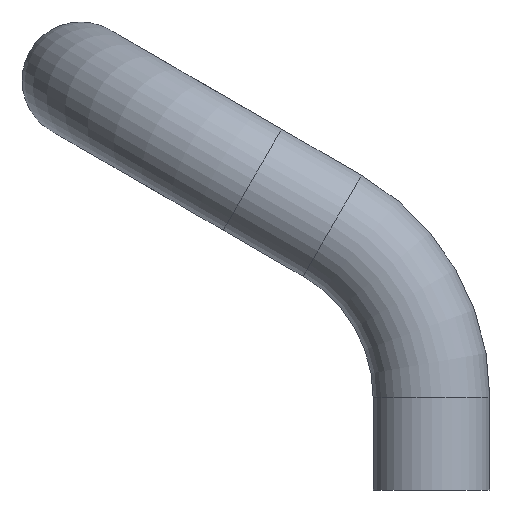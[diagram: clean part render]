
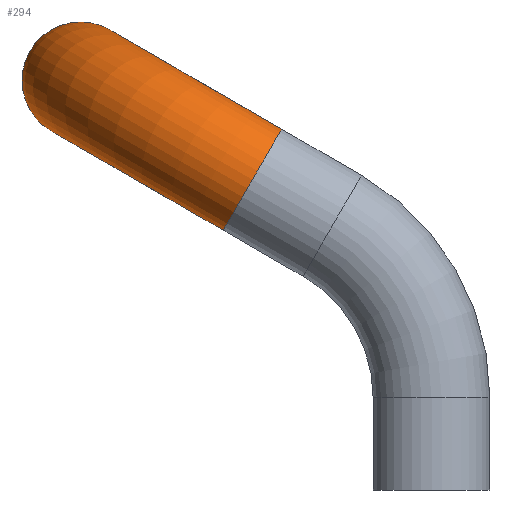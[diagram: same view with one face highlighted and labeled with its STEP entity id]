
A CAD part, left-side view. The second image highlights one B-rep face of the part: STEP entity #294.
In plain terms, the highlighted toroidal (fillet/blend) face has major radius 17 mm and minor radius 5 mm.
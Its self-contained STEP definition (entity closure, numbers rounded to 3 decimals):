
#267=CARTESIAN_POINT('',(17.0,15.342,26.572));
#268=DIRECTION('',(0.0,-0.5,0.866));
#269=DIRECTION('',(1.0,0.0,0.0));
#270=AXIS2_PLACEMENT_3D('',#267,#268,#269);
#271=TOROIDAL_SURFACE('',#270,17.0,5.0);
#272=CARTESIAN_POINT('',(5.0,15.342,26.572));
#273=VERTEX_POINT('',#272);
#274=CARTESIAN_POINT('',(0.0,15.342,26.572));
#275=DIRECTION('',(0.0,0.866,0.5));
#276=DIRECTION('',(1.0,0.0,0.0));
#277=AXIS2_PLACEMENT_3D('',#274,#275,#276);
#278=CIRCLE('',#277,5.0);
#279=EDGE_CURVE('',#273,#273,#278,.T.);
#280=ORIENTED_EDGE('',*,*,#279,.T.);
#281=EDGE_LOOP('',(#280));
#282=FACE_OUTER_BOUND('',#281,.T.);
#283=CARTESIAN_POINT('',(17.0,25.734,32.572));
#284=VERTEX_POINT('',#283);
#285=CARTESIAN_POINT('',(17.0,30.064,35.072));
#286=DIRECTION('',(-1.0,0.0,0.0));
#287=DIRECTION('',(0.0,0.0,1.0));
#288=AXIS2_PLACEMENT_3D('',#285,#286,#287);
#289=CIRCLE('',#288,5.0);
#290=EDGE_CURVE('',#284,#284,#289,.T.);
#291=ORIENTED_EDGE('',*,*,#290,.T.);
#292=EDGE_LOOP('',(#291));
#293=FACE_BOUND('',#292,.T.);
#294=ADVANCED_FACE('',(#282,#293),#271,.T.);
